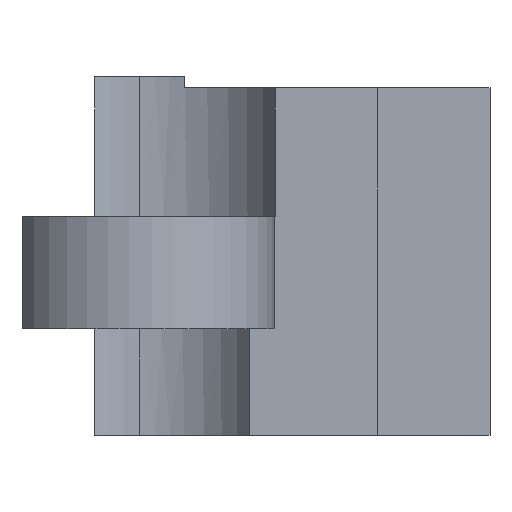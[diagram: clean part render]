
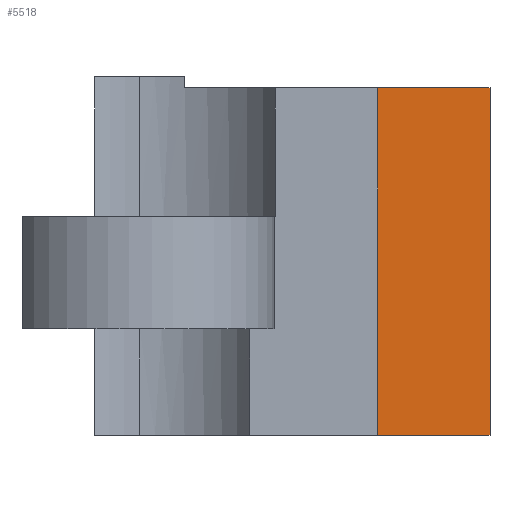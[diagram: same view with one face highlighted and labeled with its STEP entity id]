
A CAD part, left-side view. The second image highlights one B-rep face of the part: STEP entity #5518.
In plain terms, the highlighted planar face has unit normal (-1, 0, 0).
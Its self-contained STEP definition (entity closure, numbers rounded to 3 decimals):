
#3741 = PLANE('',#3742);
#3742 = AXIS2_PLACEMENT_3D('',#3743,#3744,#3745);
#3743 = CARTESIAN_POINT('',(16.8,-12.3,-10.4));
#3744 = DIRECTION('',(0.,0.,1.));
#3745 = DIRECTION('',(1.,0.,-0.));
#4048 = PLANE('',#4049);
#4049 = AXIS2_PLACEMENT_3D('',#4050,#4051,#4052);
#4050 = CARTESIAN_POINT('',(16.8,-12.3,-10.4));
#4051 = DIRECTION('',(-0.,1.,0.));
#4052 = DIRECTION('',(0.,0.,1.));
#4305 = PLANE('',#4306);
#4306 = AXIS2_PLACEMENT_3D('',#4307,#4308,#4309);
#4307 = CARTESIAN_POINT('',(16.8,-12.3,-4.2));
#4308 = DIRECTION('',(0.,0.,1.));
#4309 = DIRECTION('',(1.,0.,-0.));
#4716 = EDGE_CURVE('',#4717,#4719,#4721,.T.);
#4717 = VERTEX_POINT('',#4718);
#4718 = CARTESIAN_POINT('',(16.8,-12.3,-10.4));
#4719 = VERTEX_POINT('',#4720);
#4720 = CARTESIAN_POINT('',(16.8,-10.3,-10.4));
#4721 = SURFACE_CURVE('',#4722,(#4726,#4733),.PCURVE_S1.);
#4722 = LINE('',#4723,#4724);
#4723 = CARTESIAN_POINT('',(16.8,-12.3,-10.4));
#4724 = VECTOR('',#4725,1.);
#4725 = DIRECTION('',(-0.,1.,0.));
#4726 = PCURVE('',#3741,#4727);
#4727 = DEFINITIONAL_REPRESENTATION('',(#4728),#4732);
#4728 = LINE('',#4729,#4730);
#4729 = CARTESIAN_POINT('',(0.,0.));
#4730 = VECTOR('',#4731,1.);
#4731 = DIRECTION('',(0.,1.));
#4732 = ( GEOMETRIC_REPRESENTATION_CONTEXT(2) 
PARAMETRIC_REPRESENTATION_CONTEXT() REPRESENTATION_CONTEXT('2D SPACE',''
  ) );
#4733 = PCURVE('',#4734,#4739);
#4734 = PLANE('',#4735);
#4735 = AXIS2_PLACEMENT_3D('',#4736,#4737,#4738);
#4736 = CARTESIAN_POINT('',(16.8,-12.3,-10.4));
#4737 = DIRECTION('',(1.,0.,-0.));
#4738 = DIRECTION('',(0.,0.,1.));
#4739 = DEFINITIONAL_REPRESENTATION('',(#4740),#4744);
#4740 = LINE('',#4741,#4742);
#4741 = CARTESIAN_POINT('',(0.,0.));
#4742 = VECTOR('',#4743,1.);
#4743 = DIRECTION('',(0.,-1.));
#4744 = ( GEOMETRIC_REPRESENTATION_CONTEXT(2) 
PARAMETRIC_REPRESENTATION_CONTEXT() REPRESENTATION_CONTEXT('2D SPACE',''
  ) );
#4808 = PLANE('',#4809);
#4809 = AXIS2_PLACEMENT_3D('',#4810,#4811,#4812);
#4810 = CARTESIAN_POINT('',(16.8,-12.3,-10.4));
#4811 = DIRECTION('',(1.,0.,-0.));
#4812 = DIRECTION('',(0.,0.,1.));
#5241 = EDGE_CURVE('',#4717,#5242,#5244,.T.);
#5242 = VERTEX_POINT('',#5243);
#5243 = CARTESIAN_POINT('',(16.8,-12.3,-4.2));
#5244 = SURFACE_CURVE('',#5245,(#5249,#5256),.PCURVE_S1.);
#5245 = LINE('',#5246,#5247);
#5246 = CARTESIAN_POINT('',(16.8,-12.3,-10.4));
#5247 = VECTOR('',#5248,1.);
#5248 = DIRECTION('',(0.,0.,1.));
#5249 = PCURVE('',#4048,#5250);
#5250 = DEFINITIONAL_REPRESENTATION('',(#5251),#5255);
#5251 = LINE('',#5252,#5253);
#5252 = CARTESIAN_POINT('',(0.,0.));
#5253 = VECTOR('',#5254,1.);
#5254 = DIRECTION('',(1.,0.));
#5255 = ( GEOMETRIC_REPRESENTATION_CONTEXT(2) 
PARAMETRIC_REPRESENTATION_CONTEXT() REPRESENTATION_CONTEXT('2D SPACE',''
  ) );
#5256 = PCURVE('',#4734,#5257);
#5257 = DEFINITIONAL_REPRESENTATION('',(#5258),#5262);
#5258 = LINE('',#5259,#5260);
#5259 = CARTESIAN_POINT('',(0.,0.));
#5260 = VECTOR('',#5261,1.);
#5261 = DIRECTION('',(1.,0.));
#5262 = ( GEOMETRIC_REPRESENTATION_CONTEXT(2) 
PARAMETRIC_REPRESENTATION_CONTEXT() REPRESENTATION_CONTEXT('2D SPACE',''
  ) );
#5289 = EDGE_CURVE('',#5242,#5290,#5292,.T.);
#5290 = VERTEX_POINT('',#5291);
#5291 = CARTESIAN_POINT('',(16.8,-10.3,-4.2));
#5292 = SURFACE_CURVE('',#5293,(#5297,#5304),.PCURVE_S1.);
#5293 = LINE('',#5294,#5295);
#5294 = CARTESIAN_POINT('',(16.8,-12.3,-4.2));
#5295 = VECTOR('',#5296,1.);
#5296 = DIRECTION('',(-0.,1.,0.));
#5297 = PCURVE('',#4305,#5298);
#5298 = DEFINITIONAL_REPRESENTATION('',(#5299),#5303);
#5299 = LINE('',#5300,#5301);
#5300 = CARTESIAN_POINT('',(0.,0.));
#5301 = VECTOR('',#5302,1.);
#5302 = DIRECTION('',(0.,1.));
#5303 = ( GEOMETRIC_REPRESENTATION_CONTEXT(2) 
PARAMETRIC_REPRESENTATION_CONTEXT() REPRESENTATION_CONTEXT('2D SPACE',''
  ) );
#5304 = PCURVE('',#4734,#5305);
#5305 = DEFINITIONAL_REPRESENTATION('',(#5306),#5310);
#5306 = LINE('',#5307,#5308);
#5307 = CARTESIAN_POINT('',(6.2,0.));
#5308 = VECTOR('',#5309,1.);
#5309 = DIRECTION('',(0.,-1.));
#5310 = ( GEOMETRIC_REPRESENTATION_CONTEXT(2) 
PARAMETRIC_REPRESENTATION_CONTEXT() REPRESENTATION_CONTEXT('2D SPACE',''
  ) );
#5518 = ADVANCED_FACE('',(#5519),#4734,.F.);
#5519 = FACE_BOUND('',#5520,.F.);
#5520 = EDGE_LOOP('',(#5521,#5522,#5523,#5544));
#5521 = ORIENTED_EDGE('',*,*,#5241,.F.);
#5522 = ORIENTED_EDGE('',*,*,#4716,.T.);
#5523 = ORIENTED_EDGE('',*,*,#5524,.T.);
#5524 = EDGE_CURVE('',#4719,#5290,#5525,.T.);
#5525 = SURFACE_CURVE('',#5526,(#5530,#5537),.PCURVE_S1.);
#5526 = LINE('',#5527,#5528);
#5527 = CARTESIAN_POINT('',(16.8,-10.3,-10.4));
#5528 = VECTOR('',#5529,1.);
#5529 = DIRECTION('',(0.,0.,1.));
#5530 = PCURVE('',#4734,#5531);
#5531 = DEFINITIONAL_REPRESENTATION('',(#5532),#5536);
#5532 = LINE('',#5533,#5534);
#5533 = CARTESIAN_POINT('',(0.,-2.));
#5534 = VECTOR('',#5535,1.);
#5535 = DIRECTION('',(1.,0.));
#5536 = ( GEOMETRIC_REPRESENTATION_CONTEXT(2) 
PARAMETRIC_REPRESENTATION_CONTEXT() REPRESENTATION_CONTEXT('2D SPACE',''
  ) );
#5537 = PCURVE('',#4808,#5538);
#5538 = DEFINITIONAL_REPRESENTATION('',(#5539),#5543);
#5539 = LINE('',#5540,#5541);
#5540 = CARTESIAN_POINT('',(0.,-2.));
#5541 = VECTOR('',#5542,1.);
#5542 = DIRECTION('',(1.,0.));
#5543 = ( GEOMETRIC_REPRESENTATION_CONTEXT(2) 
PARAMETRIC_REPRESENTATION_CONTEXT() REPRESENTATION_CONTEXT('2D SPACE',''
  ) );
#5544 = ORIENTED_EDGE('',*,*,#5289,.F.);
